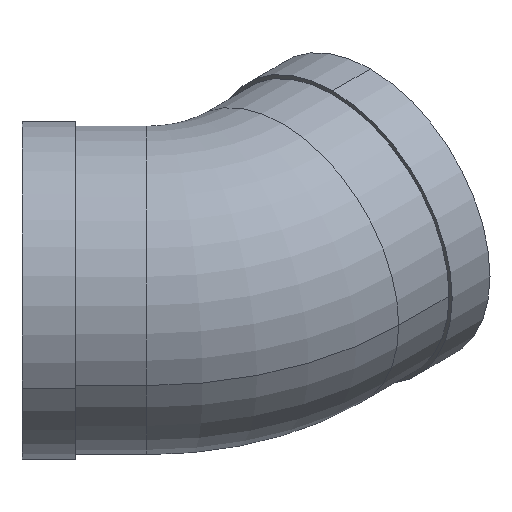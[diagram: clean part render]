
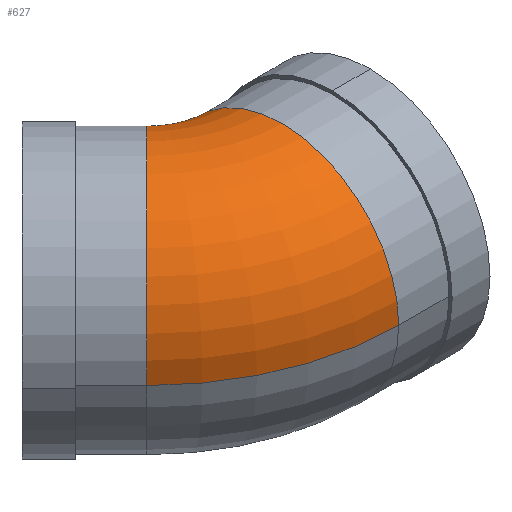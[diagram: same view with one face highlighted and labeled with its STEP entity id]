
A CAD part, isometric view. The second image highlights one B-rep face of the part: STEP entity #627.
In plain terms, the highlighted toroidal (fillet/blend) face has major radius 21.5 mm and minor radius 18.5 mm.
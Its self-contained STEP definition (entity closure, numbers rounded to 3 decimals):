
#2 = DIRECTION ( 'NONE',  ( 0., -1., 0. ) ) ;
#10 = AXIS2_PLACEMENT_3D ( 'NONE', #125, #373, #487 ) ;
#16 = CARTESIAN_POINT ( 'NONE',  ( -14., 0., 0. ) ) ;
#23 = CIRCLE ( 'NONE', #522, 18.5 ) ;
#40 = EDGE_CURVE ( 'NONE', #619, #384, #153, .T. ) ;
#54 = ORIENTED_EDGE ( 'NONE', *, *, #40, .F. ) ;
#57 = CARTESIAN_POINT ( 'NONE',  ( -14., 18.5, 0. ) ) ;
#87 = DIRECTION ( 'NONE',  ( -0.707, -0.707, 0. ) ) ;
#97 = EDGE_CURVE ( 'NONE', #405, #415, #702, .T. ) ;
#124 = ORIENTED_EDGE ( 'NONE', *, *, #214, .F. ) ;
#125 = CARTESIAN_POINT ( 'NONE',  ( -14., 21.5, 0. ) ) ;
#153 = CIRCLE ( 'NONE', #414, 40. ) ;
#194 = DIRECTION ( 'NONE',  ( -1., 0., 0. ) ) ;
#214 = EDGE_CURVE ( 'NONE', #384, #415, #23, .T. ) ;
#225 = CARTESIAN_POINT ( 'NONE',  ( -16.121, 19.379, 0. ) ) ;
#267 = CARTESIAN_POINT ( 'NONE',  ( -29.203, 6.297, 0. ) ) ;
#283 = CARTESIAN_POINT ( 'NONE',  ( -14., 21.5, 0. ) ) ;
#330 = CARTESIAN_POINT ( 'NONE',  ( -14., 21.5, 0. ) ) ;
#339 = ORIENTED_EDGE ( 'NONE', *, *, #97, .T. ) ;
#345 = ORIENTED_EDGE ( 'NONE', *, *, #542, .T. ) ;
#373 = DIRECTION ( 'NONE',  ( 0., 0., -1. ) ) ;
#384 = VERTEX_POINT ( 'NONE', #532 ) ;
#392 = CIRCLE ( 'NONE', #609, 18.5 ) ;
#405 = VERTEX_POINT ( 'NONE', #57 ) ;
#414 = AXIS2_PLACEMENT_3D ( 'NONE', #283, #525, #758 ) ;
#415 = VERTEX_POINT ( 'NONE', #225 ) ;
#445 = DIRECTION ( 'NONE',  ( -0.707, 0.707, 0. ) ) ;
#487 = DIRECTION ( 'NONE',  ( -1., 0., 0. ) ) ;
#517 = FACE_OUTER_BOUND ( 'NONE', #597, .T. ) ;
#522 = AXIS2_PLACEMENT_3D ( 'NONE', #267, #445, #87 ) ;
#525 = DIRECTION ( 'NONE',  ( 0., 0., -1. ) ) ;
#532 = CARTESIAN_POINT ( 'NONE',  ( -42.284, -6.784, 0. ) ) ;
#542 = EDGE_CURVE ( 'NONE', #619, #405, #392, .T. ) ;
#565 = CARTESIAN_POINT ( 'NONE',  ( -14., -18.5, 0. ) ) ;
#597 = EDGE_LOOP ( 'NONE', ( #54, #345, #339, #124 ) ) ;
#609 = AXIS2_PLACEMENT_3D ( 'NONE', #16, #194, #2 ) ;
#619 = VERTEX_POINT ( 'NONE', #565 ) ;
#627 = ADVANCED_FACE ( 'NONE', ( #517 ), #671, .T. ) ;
#662 = AXIS2_PLACEMENT_3D ( 'NONE', #330, #681, #683 ) ;
#671 = TOROIDAL_SURFACE ( 'NONE', #662, 21.5, 18.5 ) ;
#681 = DIRECTION ( 'NONE',  ( 0., 0., -1. ) ) ;
#683 = DIRECTION ( 'NONE',  ( -1., 0., 0. ) ) ;
#702 = CIRCLE ( 'NONE', #10, 3. ) ;
#758 = DIRECTION ( 'NONE',  ( -1., 0., 0. ) ) ;
